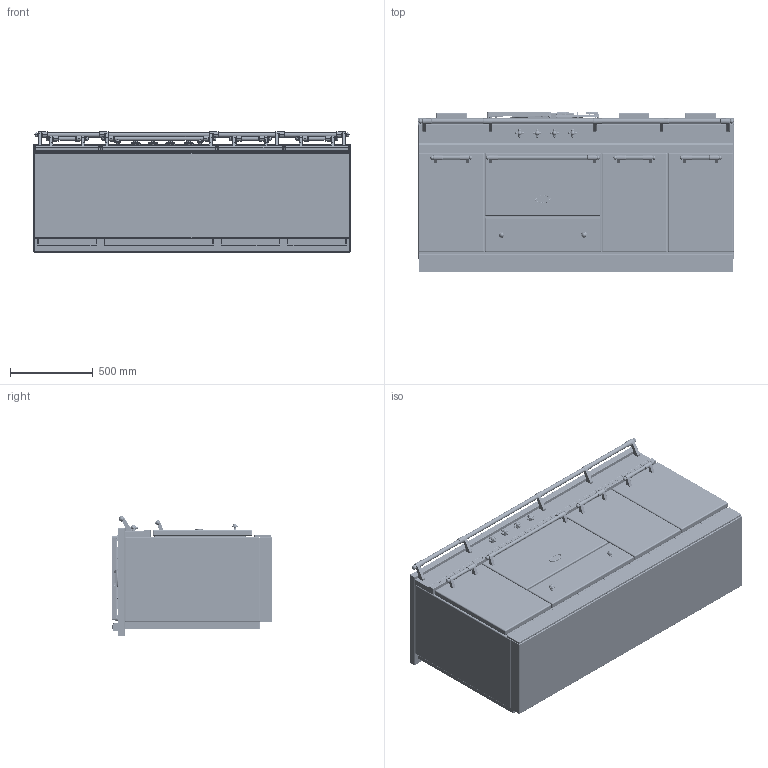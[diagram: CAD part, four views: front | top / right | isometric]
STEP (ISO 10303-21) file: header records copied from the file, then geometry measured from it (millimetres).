
FILE_DESCRIPTION((''),'2;1');
FILE_NAME('LCF1931D_ASM','2021-12-08T08:59:03',('r.avril'),(''),'CREO PARAMETRIC BY PTC INC, 2017260','CREO PARAMETRIC BY PTC INC, 2017260','');
FILE_SCHEMA(('AP203_CONFIGURATION_CONTROLLED_3D_DESIGN_OF_MECHANICAL_PARTS_AND_ASSEMBLIES_MIM_LF { 1 0 10303 403 2 1 2 }'));
Products named in the file (29): BASE_EXPORT_FONTENAY_LG1931D; 65650003; 65650004; 65650006; 65650007; 6531940; 6531941; 6531943; 65049009; 65650001; 6538399; 1931942; 65080022_AF0; 6531942_ASM; BASE_EXPORT_FONTENAY_LG1931D_ASM; TABLE_1900D_CLASSIQUE_3_FEUX; 5KW; 1_5KW; 3KW; 6537023; 65149005; 90000565_ASM; 65062008; 65062012; 90000549_ASM; CHEMINEE_2020_LG371_EXPORT_STEP; CHEMINEE_2020_LG182_EXPORT_STEP; TABLE_1900D_TRADITION_ASM; LCF1931D_ASM
Assembly tree (48 placements, depth 4):
  LCF1931D_ASM
    BASE_EXPORT_FONTENAY_LG1931D_ASM
      BASE_EXPORT_FONTENAY_LG1931D
      65650003
      65650004
      65650006  x2
      65650007
      6531940  x4
      6531941  x4
      6531943  x2
      65049009
      65650001
      6531942_ASM  x4
        6538399
        1931942
        65080022_AF0
    TABLE_1900D_TRADITION_ASM
      TABLE_1900D_CLASSIQUE_3_FEUX
      5KW
      1_5KW
      3KW
      90000565_ASM
        6537023
        65149005  x4
      90000549_ASM
        65062008
        65062012
        65149005  x4
      CHEMINEE_2020_LG371_EXPORT_STEP
      CHEMINEE_2020_LG182_EXPORT_STEP  x3
Bounding box: 1905 x 967 x 724 mm (x, y, z)
Volume: 698500759.7 mm3; surface area: 16609086.7 mm2
Topology: 58 solids, 73 shells, 7914 faces, 20585 edges, 12858 vertices
Faces by surface type: plane 3818, cylinder 2410, bspline 673, torus 369, sphere 276, cone 214, extrusion 134, revolution 20
Entity records: 244097 total; most frequent: CARTESIAN_POINT 63821, ORIENTED_EDGE 30336, DIRECTION 28274, EDGE_CURVE 15182, VECTOR 9902, LINE 9852, PRESENTATION_STYLE_ASSIGNMENT 9659, STYLED_ITEM 9636
